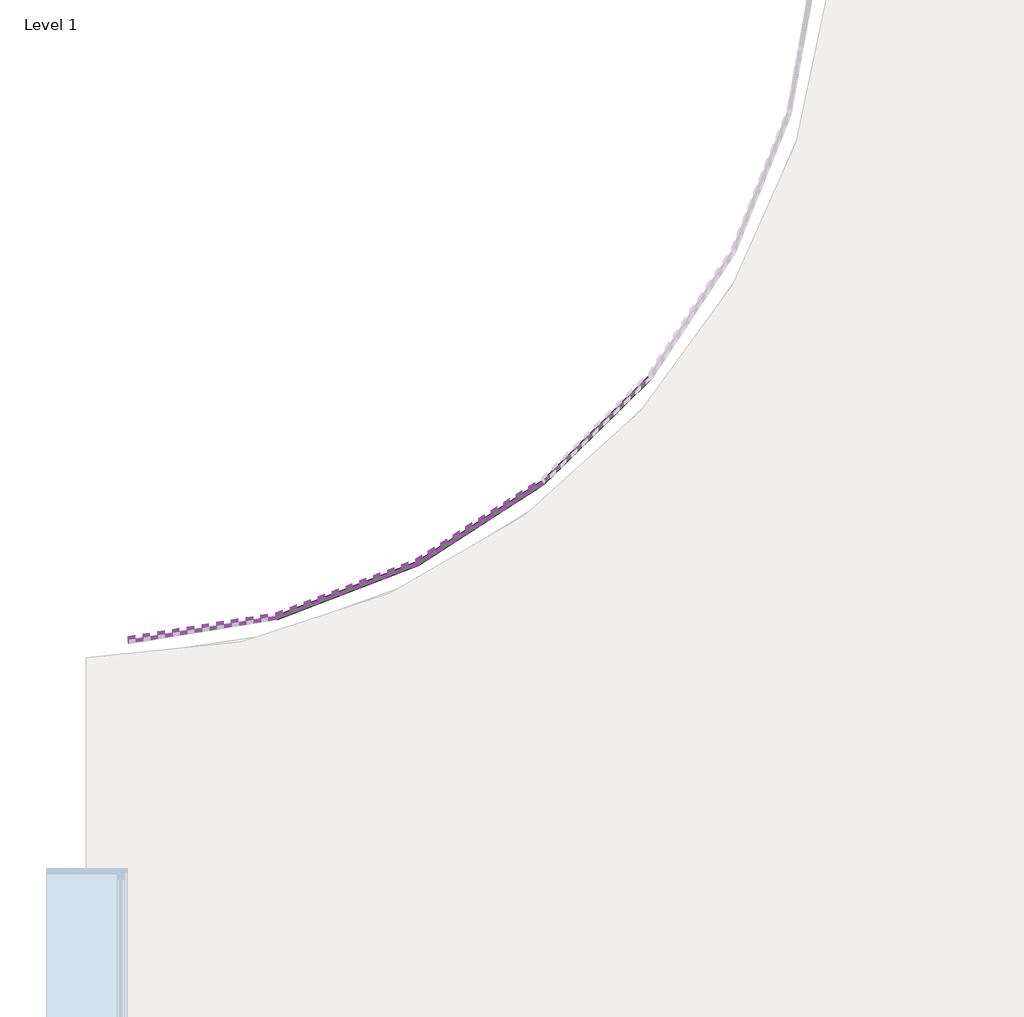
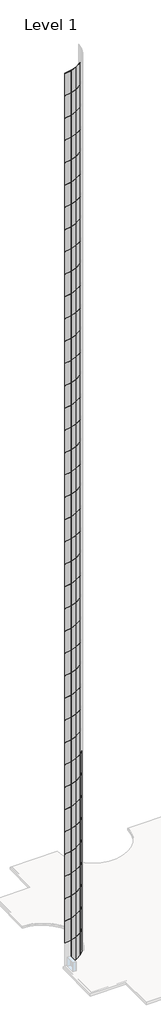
# One storey, part 2 of 19: 128 plates.
"""IFC4 building model written with IfcOpenShell, lengths in millimetres."""

from ifc_helpers import new_model, si_unit, origin, place, context, project, spatial, transform, mapped, element, save
from components import system_panel_glazed_d77d1ebf

model = new_model("IFC4")

# Units and contexts
model_context = context("Model", 3, world=origin())
ifc_project = project(units=[si_unit("LENGTHUNIT", "METRE", prefix="MILLI")], contexts=[model_context])

# Site, building, storey
site = spatial("IfcSite", under=ifc_project)
building = spatial("IfcBuilding", under=site)
storey = spatial("IfcBuildingStorey", under=building, Name="Level 1", Elevation=0.0)

# Plates
placement = place(None, origin())
system_panel_glazed_shape = system_panel_glazed_d77d1ebf(model_context)
element("IfcPlate", 1, ObjectType="System Panel : Glazed", at=placement, inside=storey, context=model_context, shape_type="MappedRepresentation", body=[
    mapped(system_panel_glazed_shape, transform((-11020.1328323, -10556.8719816, 3048.0), x_axis=(0.987325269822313, 0.15870983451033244, 0.0), y_axis=(-0.15870983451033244, 0.987325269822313, 0.0), z_axis=(0.0, 0.0, 1.0))),
])
element("IfcPlate", 2, ObjectType="System Panel : Glazed", at=placement, inside=storey, context=model_context, shape_type="MappedRepresentation", body=[
    mapped(system_panel_glazed_shape, transform((-11020.1328323, -10556.8719816, 6096.0), x_axis=(0.987325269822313, 0.15870983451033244, 0.0), y_axis=(-0.15870983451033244, 0.987325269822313, 0.0), z_axis=(0.0, 0.0, 1.0))),
])
element("IfcPlate", 3, ObjectType="System Panel : Glazed", at=placement, inside=storey, context=model_context, shape_type="MappedRepresentation", body=[
    mapped(system_panel_glazed_shape, transform((-11020.1328323, -10556.8719816, 9144.0), x_axis=(0.987325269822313, 0.15870983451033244, 0.0), y_axis=(-0.15870983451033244, 0.987325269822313, 0.0), z_axis=(0.0, 0.0, 1.0))),
])
element("IfcPlate", 4, ObjectType="System Panel : Glazed", at=placement, inside=storey, context=model_context, shape_type="MappedRepresentation", body=[
    mapped(system_panel_glazed_shape, transform((-11020.1328323, -10556.8719816, 12192.0), x_axis=(0.987325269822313, 0.15870983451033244, 0.0), y_axis=(-0.15870983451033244, 0.987325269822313, 0.0), z_axis=(0.0, 0.0, 1.0))),
])
element("IfcPlate", 5, ObjectType="System Panel : Glazed", at=placement, inside=storey, context=model_context, shape_type="MappedRepresentation", body=[
    mapped(system_panel_glazed_shape, transform((-11020.1328323, -10556.8719816, 15240.0), x_axis=(0.987325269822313, 0.15870983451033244, 0.0), y_axis=(-0.15870983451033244, 0.987325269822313, 0.0), z_axis=(0.0, 0.0, 1.0))),
])
element("IfcPlate", 6, ObjectType="System Panel : Glazed", at=placement, inside=storey, context=model_context, shape_type="MappedRepresentation", body=[
    mapped(system_panel_glazed_shape, transform((-11020.1328323, -10556.8719816, 18288.0), x_axis=(0.987325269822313, 0.15870983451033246, 0.0), y_axis=(-0.15870983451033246, 0.987325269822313, 0.0), z_axis=(0.0, 0.0, 1.0))),
])
element("IfcPlate", 7, ObjectType="System Panel : Glazed", at=placement, inside=storey, context=model_context, shape_type="MappedRepresentation", body=[
    mapped(system_panel_glazed_shape, transform((-11020.1328323, -10556.8719816, 21336.0), x_axis=(0.987325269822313, 0.15870983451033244, 0.0), y_axis=(-0.15870983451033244, 0.987325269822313, 0.0), z_axis=(0.0, 0.0, 1.0))),
])
element("IfcPlate", 8, ObjectType="System Panel : Glazed", at=placement, inside=storey, context=model_context, shape_type="MappedRepresentation", body=[
    mapped(system_panel_glazed_shape, transform((-11020.1328323, -10556.8719816, 24384.0), x_axis=(0.987325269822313, 0.15870983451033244, 0.0), y_axis=(-0.15870983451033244, 0.987325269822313, 0.0), z_axis=(0.0, 0.0, 1.0))),
])
element("IfcPlate", 9, ObjectType="System Panel : Glazed", at=placement, inside=storey, context=model_context, shape_type="MappedRepresentation", body=[
    mapped(system_panel_glazed_shape, transform((-11020.1328323, -10556.8719816, 27432.0), x_axis=(0.987325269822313, 0.15870983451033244, 0.0), y_axis=(-0.15870983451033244, 0.987325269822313, 0.0), z_axis=(0.0, 0.0, 1.0))),
])
element("IfcPlate", 10, ObjectType="System Panel : Glazed", at=placement, inside=storey, context=model_context, shape_type="MappedRepresentation", body=[
    mapped(system_panel_glazed_shape, transform((-11020.1328323, -10556.8719816, 30480.0), x_axis=(0.987325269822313, 0.15870983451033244, 0.0), y_axis=(-0.15870983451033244, 0.987325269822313, 0.0), z_axis=(0.0, 0.0, 1.0))),
])
element("IfcPlate", 11, ObjectType="System Panel : Glazed", at=placement, inside=storey, context=model_context, shape_type="MappedRepresentation", body=[
    mapped(system_panel_glazed_shape, transform((-11020.1328323, -10556.8719816, 33528.0), x_axis=(0.987325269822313, 0.15870983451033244, 0.0), y_axis=(-0.15870983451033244, 0.987325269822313, 0.0), z_axis=(0.0, 0.0, 1.0))),
])
element("IfcPlate", 12, ObjectType="System Panel : Glazed", at=placement, inside=storey, context=model_context, shape_type="MappedRepresentation", body=[
    mapped(system_panel_glazed_shape, transform((-11020.1328323, -10556.8719816, 36576.0), x_axis=(0.987325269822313, 0.15870983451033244, 0.0), y_axis=(-0.15870983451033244, 0.987325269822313, 0.0), z_axis=(0.0, 0.0, 1.0))),
])
element("IfcPlate", 13, ObjectType="System Panel : Glazed", at=placement, inside=storey, context=model_context, shape_type="MappedRepresentation", body=[
    mapped(system_panel_glazed_shape, transform((-11020.1328323, -10556.8719816, 39624.0), x_axis=(0.987325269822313, 0.15870983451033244, 0.0), y_axis=(-0.15870983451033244, 0.987325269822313, 0.0), z_axis=(0.0, 0.0, 1.0))),
])
element("IfcPlate", 14, ObjectType="System Panel : Glazed", at=placement, inside=storey, context=model_context, shape_type="MappedRepresentation", body=[
    mapped(system_panel_glazed_shape, transform((-11020.1328323, -10556.8719816, 42672.0), x_axis=(0.987325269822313, 0.15870983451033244, 0.0), y_axis=(-0.15870983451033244, 0.987325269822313, 0.0), z_axis=(0.0, 0.0, 1.0))),
])
element("IfcPlate", 15, ObjectType="System Panel : Glazed", at=placement, inside=storey, context=model_context, shape_type="MappedRepresentation", body=[
    mapped(system_panel_glazed_shape, transform((-11020.1328323, -10556.8719816, 45720.0), x_axis=(0.987325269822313, 0.15870983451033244, 0.0), y_axis=(-0.15870983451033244, 0.987325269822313, 0.0), z_axis=(0.0, 0.0, 1.0))),
])
element("IfcPlate", 16, ObjectType="System Panel : Glazed", at=placement, inside=storey, context=model_context, shape_type="MappedRepresentation", body=[
    mapped(system_panel_glazed_shape, transform((-11020.1328323, -10556.8719816, 48768.0), x_axis=(0.987325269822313, 0.15870983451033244, 0.0), y_axis=(-0.15870983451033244, 0.987325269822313, 0.0), z_axis=(0.0, 0.0, 1.0))),
])
element("IfcPlate", 17, ObjectType="System Panel : Glazed", at=placement, inside=storey, context=model_context, shape_type="MappedRepresentation", body=[
    mapped(system_panel_glazed_shape, transform((-11020.1328323, -10556.8719816, 51816.0), x_axis=(0.987325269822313, 0.15870983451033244, 0.0), y_axis=(-0.15870983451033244, 0.987325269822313, 0.0), z_axis=(0.0, 0.0, 1.0))),
])
element("IfcPlate", 18, ObjectType="System Panel : Glazed", at=placement, inside=storey, context=model_context, shape_type="MappedRepresentation", body=[
    mapped(system_panel_glazed_shape, transform((-11020.1328323, -10556.8719816, 54864.0), x_axis=(0.987325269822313, 0.15870983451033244, 0.0), y_axis=(-0.15870983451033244, 0.987325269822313, 0.0), z_axis=(0.0, 0.0, 1.0))),
])
element("IfcPlate", 19, ObjectType="System Panel : Glazed", at=placement, inside=storey, context=model_context, shape_type="MappedRepresentation", body=[
    mapped(system_panel_glazed_shape, transform((-11020.1328323, -10556.8719816, 57912.0), x_axis=(0.987325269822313, 0.15870983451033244, 0.0), y_axis=(-0.15870983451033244, 0.987325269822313, 0.0), z_axis=(0.0, 0.0, 1.0))),
])
element("IfcPlate", 20, ObjectType="System Panel : Glazed", at=placement, inside=storey, context=model_context, shape_type="MappedRepresentation", body=[
    mapped(system_panel_glazed_shape, transform((-11020.1328323, -10556.8719816, 60960.0), x_axis=(0.987325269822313, 0.15870983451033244, 0.0), y_axis=(-0.15870983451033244, 0.987325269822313, 0.0), z_axis=(0.0, 0.0, 1.0))),
])
element("IfcPlate", 21, ObjectType="System Panel : Glazed", at=placement, inside=storey, context=model_context, shape_type="MappedRepresentation", body=[
    mapped(system_panel_glazed_shape, transform((-11020.1328323, -10556.8719816, 64008.0), x_axis=(0.987325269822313, 0.15870983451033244, 0.0), y_axis=(-0.15870983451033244, 0.987325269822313, 0.0), z_axis=(0.0, 0.0, 1.0))),
])
element("IfcPlate", 22, ObjectType="System Panel : Glazed", at=placement, inside=storey, context=model_context, shape_type="MappedRepresentation", body=[
    mapped(system_panel_glazed_shape, transform((-11020.1328323, -10556.8719816, 67056.0), x_axis=(0.987325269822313, 0.15870983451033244, 0.0), y_axis=(-0.15870983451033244, 0.987325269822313, 0.0), z_axis=(0.0, 0.0, 1.0))),
])
element("IfcPlate", 23, ObjectType="System Panel : Glazed", at=placement, inside=storey, context=model_context, shape_type="MappedRepresentation", body=[
    mapped(system_panel_glazed_shape, transform((-11020.1328323, -10556.8719816, 70104.0), x_axis=(0.987325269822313, 0.15870983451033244, 0.0), y_axis=(-0.15870983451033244, 0.987325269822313, 0.0), z_axis=(0.0, 0.0, 1.0))),
])
element("IfcPlate", 24, ObjectType="System Panel : Glazed", at=placement, inside=storey, context=model_context, shape_type="MappedRepresentation", body=[
    mapped(system_panel_glazed_shape, transform((-11020.1328323, -10556.8719816, 73152.0), x_axis=(0.987325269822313, 0.15870983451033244, 0.0), y_axis=(-0.15870983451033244, 0.987325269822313, 0.0), z_axis=(0.0, 0.0, 1.0))),
])
element("IfcPlate", 25, ObjectType="System Panel : Glazed", at=placement, inside=storey, context=model_context, shape_type="MappedRepresentation", body=[
    mapped(system_panel_glazed_shape, transform((-11020.1328323, -10556.8719816, 76200.0), x_axis=(0.987325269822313, 0.15870983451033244, 0.0), y_axis=(-0.15870983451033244, 0.987325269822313, 0.0), z_axis=(0.0, 0.0, 1.0))),
])
element("IfcPlate", 26, ObjectType="System Panel : Glazed", at=placement, inside=storey, context=model_context, shape_type="MappedRepresentation", body=[
    mapped(system_panel_glazed_shape, transform((-11020.1328323, -10556.8719816, 79248.0), x_axis=(0.987325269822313, 0.15870983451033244, 0.0), y_axis=(-0.15870983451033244, 0.987325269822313, 0.0), z_axis=(0.0, 0.0, 1.0))),
])
element("IfcPlate", 27, ObjectType="System Panel : Glazed", at=placement, inside=storey, context=model_context, shape_type="MappedRepresentation", body=[
    mapped(system_panel_glazed_shape, transform((-11020.1328323, -10556.8719816, 82296.0), x_axis=(0.987325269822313, 0.15870983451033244, 0.0), y_axis=(-0.15870983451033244, 0.987325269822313, 0.0), z_axis=(0.0, 0.0, 1.0))),
])
element("IfcPlate", 28, ObjectType="System Panel : Glazed", at=placement, inside=storey, context=model_context, shape_type="MappedRepresentation", body=[
    mapped(system_panel_glazed_shape, transform((-11020.1328323, -10556.8719816, 85344.0), x_axis=(0.987325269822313, 0.15870983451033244, 0.0), y_axis=(-0.15870983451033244, 0.987325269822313, 0.0), z_axis=(0.0, 0.0, 1.0))),
])
element("IfcPlate", 29, ObjectType="System Panel : Glazed", at=placement, inside=storey, context=model_context, shape_type="MappedRepresentation", body=[
    mapped(system_panel_glazed_shape, transform((-11020.1328323, -10556.8719816, 88392.0), x_axis=(0.987325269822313, 0.15870983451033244, 0.0), y_axis=(-0.15870983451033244, 0.987325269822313, 0.0), z_axis=(0.0, 0.0, 1.0))),
])
element("IfcPlate", 30, ObjectType="System Panel : Glazed", at=placement, inside=storey, context=model_context, shape_type="MappedRepresentation", body=[
    mapped(system_panel_glazed_shape, transform((-11020.1328323, -10556.8719816, 91440.0), x_axis=(0.987325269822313, 0.15870983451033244, 0.0), y_axis=(-0.15870983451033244, 0.987325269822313, 0.0), z_axis=(0.0, 0.0, 1.0))),
])
element("IfcPlate", 31, ObjectType="System Panel : Glazed", at=placement, inside=storey, context=model_context, shape_type="MappedRepresentation", body=[
    mapped(system_panel_glazed_shape, transform((-11020.1328323, -10556.8719816, 94488.0), x_axis=(0.987325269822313, 0.15870983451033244, 0.0), y_axis=(-0.15870983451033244, 0.987325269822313, 0.0), z_axis=(0.0, 0.0, 1.0))),
])
element("IfcPlate", 32, ObjectType="System Panel : Glazed", at=placement, inside=storey, context=model_context, shape_type="MappedRepresentation", body=[
    mapped(system_panel_glazed_shape, transform((-11020.1328323, -10556.8719816, 97536.0), x_axis=(0.987325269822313, 0.15870983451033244, 0.0), y_axis=(-0.15870983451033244, 0.987325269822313, 0.0), z_axis=(0.0, 0.0, 1.0))),
])
element("IfcPlate", 33, ObjectType="System Panel : Glazed", at=placement, inside=storey, context=model_context, shape_type="MappedRepresentation", body=[
    mapped(system_panel_glazed_shape, transform((-11020.1328323, -10556.8719816, 100584.0), x_axis=(0.987325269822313, 0.15870983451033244, 0.0), y_axis=(-0.15870983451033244, 0.987325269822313, 0.0), z_axis=(0.0, 0.0, 1.0))),
])
element("IfcPlate", 34, ObjectType="System Panel : Glazed", at=placement, inside=storey, context=model_context, shape_type="MappedRepresentation", body=[
    mapped(system_panel_glazed_shape, transform((-10141.6977511, -10320.9781379, 0.0), x_axis=(0.9340113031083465, 0.35724345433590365, 0.0), y_axis=(-0.35724345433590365, 0.9340113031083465, 0.0), z_axis=(0.0, 0.0, 1.0))),
])
element("IfcPlate", 35, ObjectType="System Panel : Glazed", at=placement, inside=storey, context=model_context, shape_type="MappedRepresentation", body=[
    mapped(system_panel_glazed_shape, transform((-10141.6977511, -10320.9781379, 3048.0), x_axis=(0.9340113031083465, 0.35724345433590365, 0.0), y_axis=(-0.35724345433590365, 0.9340113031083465, 0.0), z_axis=(0.0, 0.0, 1.0))),
])
element("IfcPlate", 36, ObjectType="System Panel : Glazed", at=placement, inside=storey, context=model_context, shape_type="MappedRepresentation", body=[
    mapped(system_panel_glazed_shape, transform((-10141.6977511, -10320.9781379, 6096.0), x_axis=(0.9340113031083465, 0.35724345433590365, 0.0), y_axis=(-0.35724345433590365, 0.9340113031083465, 0.0), z_axis=(0.0, 0.0, 1.0))),
])
element("IfcPlate", 37, ObjectType="System Panel : Glazed", at=placement, inside=storey, context=model_context, shape_type="MappedRepresentation", body=[
    mapped(system_panel_glazed_shape, transform((-10141.6977511, -10320.9781379, 9144.0), x_axis=(0.9340113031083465, 0.35724345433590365, 0.0), y_axis=(-0.35724345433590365, 0.9340113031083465, 0.0), z_axis=(0.0, 0.0, 1.0))),
])
element("IfcPlate", 38, ObjectType="System Panel : Glazed", at=placement, inside=storey, context=model_context, shape_type="MappedRepresentation", body=[
    mapped(system_panel_glazed_shape, transform((-10141.6977511, -10320.9781379, 12192.0), x_axis=(0.9340113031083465, 0.35724345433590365, 0.0), y_axis=(-0.35724345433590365, 0.9340113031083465, 0.0), z_axis=(0.0, 0.0, 1.0))),
])
element("IfcPlate", 39, ObjectType="System Panel : Glazed", at=placement, inside=storey, context=model_context, shape_type="MappedRepresentation", body=[
    mapped(system_panel_glazed_shape, transform((-10141.6977511, -10320.9781379, 15240.0), x_axis=(0.9340113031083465, 0.35724345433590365, 0.0), y_axis=(-0.35724345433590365, 0.9340113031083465, 0.0), z_axis=(0.0, 0.0, 1.0))),
])
element("IfcPlate", 40, ObjectType="System Panel : Glazed", at=placement, inside=storey, context=model_context, shape_type="MappedRepresentation", body=[
    mapped(system_panel_glazed_shape, transform((-10141.6977511, -10320.9781379, 18288.0), x_axis=(0.9340113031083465, 0.35724345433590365, 0.0), y_axis=(-0.35724345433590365, 0.9340113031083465, 0.0), z_axis=(0.0, 0.0, 1.0))),
])
element("IfcPlate", 41, ObjectType="System Panel : Glazed", at=placement, inside=storey, context=model_context, shape_type="MappedRepresentation", body=[
    mapped(system_panel_glazed_shape, transform((-10141.6977511, -10320.9781379, 21336.0), x_axis=(0.9340113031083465, 0.35724345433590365, 0.0), y_axis=(-0.35724345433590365, 0.9340113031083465, 0.0), z_axis=(0.0, 0.0, 1.0))),
])
element("IfcPlate", 42, ObjectType="System Panel : Glazed", at=placement, inside=storey, context=model_context, shape_type="MappedRepresentation", body=[
    mapped(system_panel_glazed_shape, transform((-10141.6977511, -10320.9781379, 24384.0), x_axis=(0.9340113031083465, 0.35724345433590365, 0.0), y_axis=(-0.35724345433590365, 0.9340113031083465, 0.0), z_axis=(0.0, 0.0, 1.0))),
])
element("IfcPlate", 43, ObjectType="System Panel : Glazed", at=placement, inside=storey, context=model_context, shape_type="MappedRepresentation", body=[
    mapped(system_panel_glazed_shape, transform((-10141.6977511, -10320.9781379, 27432.0), x_axis=(0.9340113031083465, 0.35724345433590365, 0.0), y_axis=(-0.35724345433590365, 0.9340113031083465, 0.0), z_axis=(0.0, 0.0, 1.0))),
])
element("IfcPlate", 44, ObjectType="System Panel : Glazed", at=placement, inside=storey, context=model_context, shape_type="MappedRepresentation", body=[
    mapped(system_panel_glazed_shape, transform((-10141.6977511, -10320.9781379, 30480.0), x_axis=(0.9340113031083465, 0.35724345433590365, 0.0), y_axis=(-0.35724345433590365, 0.9340113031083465, 0.0), z_axis=(0.0, 0.0, 1.0))),
])
element("IfcPlate", 45, ObjectType="System Panel : Glazed", at=placement, inside=storey, context=model_context, shape_type="MappedRepresentation", body=[
    mapped(system_panel_glazed_shape, transform((-10141.6977511, -10320.9781379, 33528.0), x_axis=(0.9340113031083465, 0.35724345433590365, 0.0), y_axis=(-0.35724345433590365, 0.9340113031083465, 0.0), z_axis=(0.0, 0.0, 1.0))),
])
element("IfcPlate", 46, ObjectType="System Panel : Glazed", at=placement, inside=storey, context=model_context, shape_type="MappedRepresentation", body=[
    mapped(system_panel_glazed_shape, transform((-10141.6977511, -10320.9781379, 36576.0), x_axis=(0.9340113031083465, 0.35724345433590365, 0.0), y_axis=(-0.35724345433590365, 0.9340113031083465, 0.0), z_axis=(0.0, 0.0, 1.0))),
])
element("IfcPlate", 47, ObjectType="System Panel : Glazed", at=placement, inside=storey, context=model_context, shape_type="MappedRepresentation", body=[
    mapped(system_panel_glazed_shape, transform((-10141.6977511, -10320.9781379, 39624.0), x_axis=(0.9340113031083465, 0.35724345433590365, 0.0), y_axis=(-0.35724345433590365, 0.9340113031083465, 0.0), z_axis=(0.0, 0.0, 1.0))),
])
element("IfcPlate", 48, ObjectType="System Panel : Glazed", at=placement, inside=storey, context=model_context, shape_type="MappedRepresentation", body=[
    mapped(system_panel_glazed_shape, transform((-10141.6977511, -10320.9781379, 42672.0), x_axis=(0.9340113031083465, 0.35724345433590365, 0.0), y_axis=(-0.35724345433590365, 0.9340113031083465, 0.0), z_axis=(0.0, 0.0, 1.0))),
])
element("IfcPlate", 49, ObjectType="System Panel : Glazed", at=placement, inside=storey, context=model_context, shape_type="MappedRepresentation", body=[
    mapped(system_panel_glazed_shape, transform((-10141.6977511, -10320.9781379, 45720.0), x_axis=(0.9340113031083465, 0.35724345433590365, 0.0), y_axis=(-0.35724345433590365, 0.9340113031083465, 0.0), z_axis=(0.0, 0.0, 1.0))),
])
element("IfcPlate", 50, ObjectType="System Panel : Glazed", at=placement, inside=storey, context=model_context, shape_type="MappedRepresentation", body=[
    mapped(system_panel_glazed_shape, transform((-10141.6977511, -10320.9781379, 48768.0), x_axis=(0.9340113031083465, 0.35724345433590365, 0.0), y_axis=(-0.35724345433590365, 0.9340113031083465, 0.0), z_axis=(0.0, 0.0, 1.0))),
])
element("IfcPlate", 51, ObjectType="System Panel : Glazed", at=placement, inside=storey, context=model_context, shape_type="MappedRepresentation", body=[
    mapped(system_panel_glazed_shape, transform((-10141.6977511, -10320.9781379, 51816.0), x_axis=(0.9340113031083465, 0.35724345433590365, 0.0), y_axis=(-0.35724345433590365, 0.9340113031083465, 0.0), z_axis=(0.0, 0.0, 1.0))),
])
element("IfcPlate", 52, ObjectType="System Panel : Glazed", at=placement, inside=storey, context=model_context, shape_type="MappedRepresentation", body=[
    mapped(system_panel_glazed_shape, transform((-10141.6977511, -10320.9781379, 54864.0), x_axis=(0.9340113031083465, 0.35724345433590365, 0.0), y_axis=(-0.35724345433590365, 0.9340113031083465, 0.0), z_axis=(0.0, 0.0, 1.0))),
])
element("IfcPlate", 53, ObjectType="System Panel : Glazed", at=placement, inside=storey, context=model_context, shape_type="MappedRepresentation", body=[
    mapped(system_panel_glazed_shape, transform((-10141.6977511, -10320.9781379, 57912.0), x_axis=(0.9340113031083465, 0.35724345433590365, 0.0), y_axis=(-0.35724345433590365, 0.9340113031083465, 0.0), z_axis=(0.0, 0.0, 1.0))),
])
element("IfcPlate", 54, ObjectType="System Panel : Glazed", at=placement, inside=storey, context=model_context, shape_type="MappedRepresentation", body=[
    mapped(system_panel_glazed_shape, transform((-10141.6977511, -10320.9781379, 60960.0), x_axis=(0.9340113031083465, 0.35724345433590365, 0.0), y_axis=(-0.35724345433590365, 0.9340113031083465, 0.0), z_axis=(0.0, 0.0, 1.0))),
])
element("IfcPlate", 55, ObjectType="System Panel : Glazed", at=placement, inside=storey, context=model_context, shape_type="MappedRepresentation", body=[
    mapped(system_panel_glazed_shape, transform((-10141.6977511, -10320.9781379, 64008.0), x_axis=(0.9340113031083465, 0.35724345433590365, 0.0), y_axis=(-0.35724345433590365, 0.9340113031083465, 0.0), z_axis=(0.0, 0.0, 1.0))),
])
element("IfcPlate", 56, ObjectType="System Panel : Glazed", at=placement, inside=storey, context=model_context, shape_type="MappedRepresentation", body=[
    mapped(system_panel_glazed_shape, transform((-10141.6977511, -10320.9781379, 67056.0), x_axis=(0.9340113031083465, 0.35724345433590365, 0.0), y_axis=(-0.35724345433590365, 0.9340113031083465, 0.0), z_axis=(0.0, 0.0, 1.0))),
])
element("IfcPlate", 57, ObjectType="System Panel : Glazed", at=placement, inside=storey, context=model_context, shape_type="MappedRepresentation", body=[
    mapped(system_panel_glazed_shape, transform((-10141.6977511, -10320.9781379, 70104.0), x_axis=(0.9340113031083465, 0.35724345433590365, 0.0), y_axis=(-0.35724345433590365, 0.9340113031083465, 0.0), z_axis=(0.0, 0.0, 1.0))),
])
element("IfcPlate", 58, ObjectType="System Panel : Glazed", at=placement, inside=storey, context=model_context, shape_type="MappedRepresentation", body=[
    mapped(system_panel_glazed_shape, transform((-10141.6977511, -10320.9781379, 73152.0), x_axis=(0.9340113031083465, 0.35724345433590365, 0.0), y_axis=(-0.35724345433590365, 0.9340113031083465, 0.0), z_axis=(0.0, 0.0, 1.0))),
])
element("IfcPlate", 59, ObjectType="System Panel : Glazed", at=placement, inside=storey, context=model_context, shape_type="MappedRepresentation", body=[
    mapped(system_panel_glazed_shape, transform((-10141.6977511, -10320.9781379, 76200.0), x_axis=(0.9340113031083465, 0.35724345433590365, 0.0), y_axis=(-0.35724345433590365, 0.9340113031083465, 0.0), z_axis=(0.0, 0.0, 1.0))),
])
element("IfcPlate", 60, ObjectType="System Panel : Glazed", at=placement, inside=storey, context=model_context, shape_type="MappedRepresentation", body=[
    mapped(system_panel_glazed_shape, transform((-10141.6977511, -10320.9781379, 79248.0), x_axis=(0.9340113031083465, 0.35724345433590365, 0.0), y_axis=(-0.35724345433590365, 0.9340113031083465, 0.0), z_axis=(0.0, 0.0, 1.0))),
])
element("IfcPlate", 61, ObjectType="System Panel : Glazed", at=placement, inside=storey, context=model_context, shape_type="MappedRepresentation", body=[
    mapped(system_panel_glazed_shape, transform((-10141.6977511, -10320.9781379, 82296.0), x_axis=(0.9340113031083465, 0.35724345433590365, 0.0), y_axis=(-0.35724345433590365, 0.9340113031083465, 0.0), z_axis=(0.0, 0.0, 1.0))),
])
element("IfcPlate", 62, ObjectType="System Panel : Glazed", at=placement, inside=storey, context=model_context, shape_type="MappedRepresentation", body=[
    mapped(system_panel_glazed_shape, transform((-10141.6977511, -10320.9781379, 85344.0), x_axis=(0.9340113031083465, 0.35724345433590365, 0.0), y_axis=(-0.35724345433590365, 0.9340113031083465, 0.0), z_axis=(0.0, 0.0, 1.0))),
])
element("IfcPlate", 63, ObjectType="System Panel : Glazed", at=placement, inside=storey, context=model_context, shape_type="MappedRepresentation", body=[
    mapped(system_panel_glazed_shape, transform((-10141.6977511, -10320.9781379, 88392.0), x_axis=(0.9340113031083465, 0.35724345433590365, 0.0), y_axis=(-0.35724345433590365, 0.9340113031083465, 0.0), z_axis=(0.0, 0.0, 1.0))),
])
element("IfcPlate", 64, ObjectType="System Panel : Glazed", at=placement, inside=storey, context=model_context, shape_type="MappedRepresentation", body=[
    mapped(system_panel_glazed_shape, transform((-10141.6977511, -10320.9781379, 91440.0), x_axis=(0.9340113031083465, 0.35724345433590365, 0.0), y_axis=(-0.35724345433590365, 0.9340113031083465, 0.0), z_axis=(0.0, 0.0, 1.0))),
])
element("IfcPlate", 65, ObjectType="System Panel : Glazed", at=placement, inside=storey, context=model_context, shape_type="MappedRepresentation", body=[
    mapped(system_panel_glazed_shape, transform((-10141.6977511, -10320.9781379, 94488.0), x_axis=(0.9340113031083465, 0.35724345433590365, 0.0), y_axis=(-0.35724345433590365, 0.9340113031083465, 0.0), z_axis=(0.0, 0.0, 1.0))),
])
element("IfcPlate", 66, ObjectType="System Panel : Glazed", at=placement, inside=storey, context=model_context, shape_type="MappedRepresentation", body=[
    mapped(system_panel_glazed_shape, transform((-10141.6977511, -10320.9781379, 97536.0), x_axis=(0.9340113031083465, 0.35724345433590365, 0.0), y_axis=(-0.35724345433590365, 0.9340113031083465, 0.0), z_axis=(0.0, 0.0, 1.0))),
])
element("IfcPlate", 67, ObjectType="System Panel : Glazed", at=placement, inside=storey, context=model_context, shape_type="MappedRepresentation", body=[
    mapped(system_panel_glazed_shape, transform((-10141.6977511, -10320.9781379, 100584.0), x_axis=(0.9340113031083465, 0.35724345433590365, 0.0), y_axis=(-0.35724345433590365, 0.9340113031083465, 0.0), z_axis=(0.0, 0.0, 1.0))),
])
element("IfcPlate", 68, ObjectType="System Panel : Glazed", at=placement, inside=storey, context=model_context, shape_type="MappedRepresentation", body=[
    mapped(system_panel_glazed_shape, transform((-9330.0583838, -9910.4472199, 0.0), x_axis=(0.8412279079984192, 0.5406806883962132, 0.0), y_axis=(-0.5406806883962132, 0.8412279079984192, 0.0), z_axis=(0.0, 0.0, 1.0))),
])
element("IfcPlate", 69, ObjectType="System Panel : Glazed", at=placement, inside=storey, context=model_context, shape_type="MappedRepresentation", body=[
    mapped(system_panel_glazed_shape, transform((-9330.0583838, -9910.4472199, 3048.0), x_axis=(0.8412279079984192, 0.5406806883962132, 0.0), y_axis=(-0.5406806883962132, 0.8412279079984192, 0.0), z_axis=(0.0, 0.0, 1.0))),
])
element("IfcPlate", 70, ObjectType="System Panel : Glazed", at=placement, inside=storey, context=model_context, shape_type="MappedRepresentation", body=[
    mapped(system_panel_glazed_shape, transform((-9330.0583838, -9910.4472199, 6096.0), x_axis=(0.8412279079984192, 0.5406806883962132, 0.0), y_axis=(-0.5406806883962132, 0.8412279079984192, 0.0), z_axis=(0.0, 0.0, 1.0))),
])
element("IfcPlate", 71, ObjectType="System Panel : Glazed", at=placement, inside=storey, context=model_context, shape_type="MappedRepresentation", body=[
    mapped(system_panel_glazed_shape, transform((-9330.0583838, -9910.4472199, 9144.0), x_axis=(0.8412279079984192, 0.5406806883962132, 0.0), y_axis=(-0.5406806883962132, 0.8412279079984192, 0.0), z_axis=(0.0, 0.0, 1.0))),
])
element("IfcPlate", 72, ObjectType="System Panel : Glazed", at=placement, inside=storey, context=model_context, shape_type="MappedRepresentation", body=[
    mapped(system_panel_glazed_shape, transform((-9330.0583838, -9910.4472199, 12192.0), x_axis=(0.8412279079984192, 0.5406806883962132, 0.0), y_axis=(-0.5406806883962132, 0.8412279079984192, 0.0), z_axis=(0.0, 0.0, 1.0))),
])
element("IfcPlate", 73, ObjectType="System Panel : Glazed", at=placement, inside=storey, context=model_context, shape_type="MappedRepresentation", body=[
    mapped(system_panel_glazed_shape, transform((-9330.0583838, -9910.4472199, 15240.0), x_axis=(0.8412279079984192, 0.5406806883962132, 0.0), y_axis=(-0.5406806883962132, 0.8412279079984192, 0.0), z_axis=(0.0, 0.0, 1.0))),
])
element("IfcPlate", 74, ObjectType="System Panel : Glazed", at=placement, inside=storey, context=model_context, shape_type="MappedRepresentation", body=[
    mapped(system_panel_glazed_shape, transform((-9330.0583838, -9910.4472199, 18288.0), x_axis=(0.8412279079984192, 0.5406806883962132, 0.0), y_axis=(-0.5406806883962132, 0.8412279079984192, 0.0), z_axis=(0.0, 0.0, 1.0))),
])
element("IfcPlate", 75, ObjectType="System Panel : Glazed", at=placement, inside=storey, context=model_context, shape_type="MappedRepresentation", body=[
    mapped(system_panel_glazed_shape, transform((-9330.0583838, -9910.4472199, 21336.0), x_axis=(0.8412279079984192, 0.5406806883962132, 0.0), y_axis=(-0.5406806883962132, 0.8412279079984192, 0.0), z_axis=(0.0, 0.0, 1.0))),
])
element("IfcPlate", 76, ObjectType="System Panel : Glazed", at=placement, inside=storey, context=model_context, shape_type="MappedRepresentation", body=[
    mapped(system_panel_glazed_shape, transform((-9330.0583838, -9910.4472199, 24384.0), x_axis=(0.8412279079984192, 0.5406806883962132, 0.0), y_axis=(-0.5406806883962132, 0.8412279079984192, 0.0), z_axis=(0.0, 0.0, 1.0))),
])
element("IfcPlate", 77, ObjectType="System Panel : Glazed", at=placement, inside=storey, context=model_context, shape_type="MappedRepresentation", body=[
    mapped(system_panel_glazed_shape, transform((-9330.0583838, -9910.4472199, 27432.0), x_axis=(0.8412279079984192, 0.5406806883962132, 0.0), y_axis=(-0.5406806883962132, 0.8412279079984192, 0.0), z_axis=(0.0, 0.0, 1.0))),
])
element("IfcPlate", 78, ObjectType="System Panel : Glazed", at=placement, inside=storey, context=model_context, shape_type="MappedRepresentation", body=[
    mapped(system_panel_glazed_shape, transform((-9330.0583838, -9910.4472199, 30480.0), x_axis=(0.8412279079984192, 0.5406806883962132, 0.0), y_axis=(-0.5406806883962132, 0.8412279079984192, 0.0), z_axis=(0.0, 0.0, 1.0))),
])
element("IfcPlate", 79, ObjectType="System Panel : Glazed", at=placement, inside=storey, context=model_context, shape_type="MappedRepresentation", body=[
    mapped(system_panel_glazed_shape, transform((-9330.0583838, -9910.4472199, 33528.0), x_axis=(0.8412279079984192, 0.5406806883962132, 0.0), y_axis=(-0.5406806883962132, 0.8412279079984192, 0.0), z_axis=(0.0, 0.0, 1.0))),
])
element("IfcPlate", 80, ObjectType="System Panel : Glazed", at=placement, inside=storey, context=model_context, shape_type="MappedRepresentation", body=[
    mapped(system_panel_glazed_shape, transform((-9330.0583838, -9910.4472199, 36576.0), x_axis=(0.8412279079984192, 0.5406806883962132, 0.0), y_axis=(-0.5406806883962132, 0.8412279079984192, 0.0), z_axis=(0.0, 0.0, 1.0))),
])
element("IfcPlate", 81, ObjectType="System Panel : Glazed", at=placement, inside=storey, context=model_context, shape_type="MappedRepresentation", body=[
    mapped(system_panel_glazed_shape, transform((-9330.0583838, -9910.4472199, 39624.0), x_axis=(0.8412279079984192, 0.5406806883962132, 0.0), y_axis=(-0.5406806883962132, 0.8412279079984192, 0.0), z_axis=(0.0, 0.0, 1.0))),
])
element("IfcPlate", 82, ObjectType="System Panel : Glazed", at=placement, inside=storey, context=model_context, shape_type="MappedRepresentation", body=[
    mapped(system_panel_glazed_shape, transform((-9330.0583838, -9910.4472199, 42672.0), x_axis=(0.8412279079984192, 0.5406806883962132, 0.0), y_axis=(-0.5406806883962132, 0.8412279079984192, 0.0), z_axis=(0.0, 0.0, 1.0))),
])
element("IfcPlate", 83, ObjectType="System Panel : Glazed", at=placement, inside=storey, context=model_context, shape_type="MappedRepresentation", body=[
    mapped(system_panel_glazed_shape, transform((-9330.0583838, -9910.4472199, 45720.0), x_axis=(0.8412279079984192, 0.5406806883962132, 0.0), y_axis=(-0.5406806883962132, 0.8412279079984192, 0.0), z_axis=(0.0, 0.0, 1.0))),
])
element("IfcPlate", 84, ObjectType="System Panel : Glazed", at=placement, inside=storey, context=model_context, shape_type="MappedRepresentation", body=[
    mapped(system_panel_glazed_shape, transform((-9330.0583838, -9910.4472199, 48768.0), x_axis=(0.8412279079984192, 0.5406806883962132, 0.0), y_axis=(-0.5406806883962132, 0.8412279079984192, 0.0), z_axis=(0.0, 0.0, 1.0))),
])
element("IfcPlate", 85, ObjectType="System Panel : Glazed", at=placement, inside=storey, context=model_context, shape_type="MappedRepresentation", body=[
    mapped(system_panel_glazed_shape, transform((-9330.0583838, -9910.4472199, 51816.0), x_axis=(0.8412279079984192, 0.5406806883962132, 0.0), y_axis=(-0.5406806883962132, 0.8412279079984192, 0.0), z_axis=(0.0, 0.0, 1.0))),
])
element("IfcPlate", 86, ObjectType="System Panel : Glazed", at=placement, inside=storey, context=model_context, shape_type="MappedRepresentation", body=[
    mapped(system_panel_glazed_shape, transform((-9330.0583838, -9910.4472199, 54864.0), x_axis=(0.8412279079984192, 0.5406806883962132, 0.0), y_axis=(-0.5406806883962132, 0.8412279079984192, 0.0), z_axis=(0.0, 0.0, 1.0))),
])
element("IfcPlate", 87, ObjectType="System Panel : Glazed", at=placement, inside=storey, context=model_context, shape_type="MappedRepresentation", body=[
    mapped(system_panel_glazed_shape, transform((-9330.0583838, -9910.4472199, 57912.0), x_axis=(0.8412279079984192, 0.5406806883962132, 0.0), y_axis=(-0.5406806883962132, 0.8412279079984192, 0.0), z_axis=(0.0, 0.0, 1.0))),
])
element("IfcPlate", 88, ObjectType="System Panel : Glazed", at=placement, inside=storey, context=model_context, shape_type="MappedRepresentation", body=[
    mapped(system_panel_glazed_shape, transform((-9330.0583838, -9910.4472199, 60960.0), x_axis=(0.8412279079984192, 0.5406806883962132, 0.0), y_axis=(-0.5406806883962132, 0.8412279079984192, 0.0), z_axis=(0.0, 0.0, 1.0))),
])
element("IfcPlate", 89, ObjectType="System Panel : Glazed", at=placement, inside=storey, context=model_context, shape_type="MappedRepresentation", body=[
    mapped(system_panel_glazed_shape, transform((-9330.0583838, -9910.4472199, 64008.0), x_axis=(0.8412279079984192, 0.5406806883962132, 0.0), y_axis=(-0.5406806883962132, 0.8412279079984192, 0.0), z_axis=(0.0, 0.0, 1.0))),
])
element("IfcPlate", 90, ObjectType="System Panel : Glazed", at=placement, inside=storey, context=model_context, shape_type="MappedRepresentation", body=[
    mapped(system_panel_glazed_shape, transform((-9330.0583838, -9910.4472199, 67056.0), x_axis=(0.8412279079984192, 0.5406806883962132, 0.0), y_axis=(-0.5406806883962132, 0.8412279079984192, 0.0), z_axis=(0.0, 0.0, 1.0))),
])
element("IfcPlate", 91, ObjectType="System Panel : Glazed", at=placement, inside=storey, context=model_context, shape_type="MappedRepresentation", body=[
    mapped(system_panel_glazed_shape, transform((-9330.0583838, -9910.4472199, 70104.0), x_axis=(0.8412279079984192, 0.5406806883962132, 0.0), y_axis=(-0.5406806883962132, 0.8412279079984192, 0.0), z_axis=(0.0, 0.0, 1.0))),
])
element("IfcPlate", 92, ObjectType="System Panel : Glazed", at=placement, inside=storey, context=model_context, shape_type="MappedRepresentation", body=[
    mapped(system_panel_glazed_shape, transform((-9330.0583838, -9910.4472199, 73152.0), x_axis=(0.8412279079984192, 0.5406806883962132, 0.0), y_axis=(-0.5406806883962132, 0.8412279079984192, 0.0), z_axis=(0.0, 0.0, 1.0))),
])
element("IfcPlate", 93, ObjectType="System Panel : Glazed", at=placement, inside=storey, context=model_context, shape_type="MappedRepresentation", body=[
    mapped(system_panel_glazed_shape, transform((-9330.0583838, -9910.4472199, 76200.0), x_axis=(0.8412279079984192, 0.5406806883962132, 0.0), y_axis=(-0.5406806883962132, 0.8412279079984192, 0.0), z_axis=(0.0, 0.0, 1.0))),
])
element("IfcPlate", 94, ObjectType="System Panel : Glazed", at=placement, inside=storey, context=model_context, shape_type="MappedRepresentation", body=[
    mapped(system_panel_glazed_shape, transform((-9330.0583838, -9910.4472199, 79248.0), x_axis=(0.8412279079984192, 0.5406806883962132, 0.0), y_axis=(-0.5406806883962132, 0.8412279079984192, 0.0), z_axis=(0.0, 0.0, 1.0))),
])
element("IfcPlate", 95, ObjectType="System Panel : Glazed", at=placement, inside=storey, context=model_context, shape_type="MappedRepresentation", body=[
    mapped(system_panel_glazed_shape, transform((-9330.0583838, -9910.4472199, 82296.0), x_axis=(0.8412279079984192, 0.5406806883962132, 0.0), y_axis=(-0.5406806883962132, 0.8412279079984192, 0.0), z_axis=(0.0, 0.0, 1.0))),
])
element("IfcPlate", 96, ObjectType="System Panel : Glazed", at=placement, inside=storey, context=model_context, shape_type="MappedRepresentation", body=[
    mapped(system_panel_glazed_shape, transform((-9330.0583838, -9910.4472199, 85344.0), x_axis=(0.8412279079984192, 0.5406806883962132, 0.0), y_axis=(-0.5406806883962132, 0.8412279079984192, 0.0), z_axis=(0.0, 0.0, 1.0))),
])
element("IfcPlate", 97, ObjectType="System Panel : Glazed", at=placement, inside=storey, context=model_context, shape_type="MappedRepresentation", body=[
    mapped(system_panel_glazed_shape, transform((-9330.0583838, -9910.4472199, 88392.0), x_axis=(0.8412279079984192, 0.5406806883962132, 0.0), y_axis=(-0.5406806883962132, 0.8412279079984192, 0.0), z_axis=(0.0, 0.0, 1.0))),
])
element("IfcPlate", 98, ObjectType="System Panel : Glazed", at=placement, inside=storey, context=model_context, shape_type="MappedRepresentation", body=[
    mapped(system_panel_glazed_shape, transform((-9330.0583838, -9910.4472199, 91440.0), x_axis=(0.8412279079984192, 0.5406806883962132, 0.0), y_axis=(-0.5406806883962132, 0.8412279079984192, 0.0), z_axis=(0.0, 0.0, 1.0))),
])
element("IfcPlate", 99, ObjectType="System Panel : Glazed", at=placement, inside=storey, context=model_context, shape_type="MappedRepresentation", body=[
    mapped(system_panel_glazed_shape, transform((-9330.0583838, -9910.4472199, 94488.0), x_axis=(0.8412279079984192, 0.5406806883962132, 0.0), y_axis=(-0.5406806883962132, 0.8412279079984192, 0.0), z_axis=(0.0, 0.0, 1.0))),
])
element("IfcPlate", 100, ObjectType="System Panel : Glazed", at=placement, inside=storey, context=model_context, shape_type="MappedRepresentation", body=[
    mapped(system_panel_glazed_shape, transform((-9330.0583838, -9910.4472199, 97536.0), x_axis=(0.8412279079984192, 0.5406806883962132, 0.0), y_axis=(-0.5406806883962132, 0.8412279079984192, 0.0), z_axis=(0.0, 0.0, 1.0))),
])
element("IfcPlate", 101, ObjectType="System Panel : Glazed", at=placement, inside=storey, context=model_context, shape_type="MappedRepresentation", body=[
    mapped(system_panel_glazed_shape, transform((-9330.0583838, -9910.4472199, 100584.0), x_axis=(0.8412279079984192, 0.5406806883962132, 0.0), y_axis=(-0.5406806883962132, 0.8412279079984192, 0.0), z_axis=(0.0, 0.0, 1.0))),
])
element("IfcPlate", 102, ObjectType="System Panel : Glazed", at=placement, inside=storey, context=model_context, shape_type="MappedRepresentation", body=[
    mapped(system_panel_glazed_shape, transform((-8619.5129682, -9342.6274336, 0.0), x_axis=(0.7128959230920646, 0.7012698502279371, 0.0), y_axis=(-0.7012698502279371, 0.7128959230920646, 0.0), z_axis=(0.0, 0.0, 1.0))),
])
element("IfcPlate", 103, ObjectType="System Panel : Glazed", at=placement, inside=storey, context=model_context, shape_type="MappedRepresentation", body=[
    mapped(system_panel_glazed_shape, transform((-8619.5129682, -9342.6274336, 3048.0), x_axis=(0.7128959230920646, 0.7012698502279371, 0.0), y_axis=(-0.7012698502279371, 0.7128959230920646, 0.0), z_axis=(0.0, 0.0, 1.0))),
])
element("IfcPlate", 104, ObjectType="System Panel : Glazed", at=placement, inside=storey, context=model_context, shape_type="MappedRepresentation", body=[
    mapped(system_panel_glazed_shape, transform((-8619.5129682, -9342.6274336, 6096.0), x_axis=(0.7128959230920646, 0.7012698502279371, 0.0), y_axis=(-0.7012698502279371, 0.7128959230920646, 0.0), z_axis=(0.0, 0.0, 1.0))),
])
element("IfcPlate", 105, ObjectType="System Panel : Glazed", at=placement, inside=storey, context=model_context, shape_type="MappedRepresentation", body=[
    mapped(system_panel_glazed_shape, transform((-8619.5129682, -9342.6274336, 9144.0), x_axis=(0.7128959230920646, 0.7012698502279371, 0.0), y_axis=(-0.7012698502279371, 0.7128959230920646, 0.0), z_axis=(0.0, 0.0, 1.0))),
])
element("IfcPlate", 106, ObjectType="System Panel : Glazed", at=placement, inside=storey, context=model_context, shape_type="MappedRepresentation", body=[
    mapped(system_panel_glazed_shape, transform((-8619.5129682, -9342.6274336, 12192.0), x_axis=(0.7128959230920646, 0.7012698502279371, 0.0), y_axis=(-0.7012698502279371, 0.7128959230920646, 0.0), z_axis=(0.0, 0.0, 1.0))),
])
element("IfcPlate", 107, ObjectType="System Panel : Glazed", at=placement, inside=storey, context=model_context, shape_type="MappedRepresentation", body=[
    mapped(system_panel_glazed_shape, transform((-8619.5129682, -9342.6274336, 15240.0), x_axis=(0.7128959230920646, 0.7012698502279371, 0.0), y_axis=(-0.7012698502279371, 0.7128959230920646, 0.0), z_axis=(0.0, 0.0, 1.0))),
])
element("IfcPlate", 108, ObjectType="System Panel : Glazed", at=placement, inside=storey, context=model_context, shape_type="MappedRepresentation", body=[
    mapped(system_panel_glazed_shape, transform((-8619.5129682, -9342.6274336, 18288.0), x_axis=(0.7128959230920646, 0.7012698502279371, 0.0), y_axis=(-0.7012698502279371, 0.7128959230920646, 0.0), z_axis=(0.0, 0.0, 1.0))),
])
element("IfcPlate", 109, ObjectType="System Panel : Glazed", at=placement, inside=storey, context=model_context, shape_type="MappedRepresentation", body=[
    mapped(system_panel_glazed_shape, transform((-8619.5129682, -9342.6274336, 21336.0), x_axis=(0.7128959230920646, 0.7012698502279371, 0.0), y_axis=(-0.7012698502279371, 0.7128959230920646, 0.0), z_axis=(0.0, 0.0, 1.0))),
])
element("IfcPlate", 110, ObjectType="System Panel : Glazed", at=placement, inside=storey, context=model_context, shape_type="MappedRepresentation", body=[
    mapped(system_panel_glazed_shape, transform((-8619.5129682, -9342.6274336, 24384.0), x_axis=(0.7128959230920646, 0.7012698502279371, 0.0), y_axis=(-0.7012698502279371, 0.7128959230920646, 0.0), z_axis=(0.0, 0.0, 1.0))),
])
element("IfcPlate", 111, ObjectType="System Panel : Glazed", at=placement, inside=storey, context=model_context, shape_type="MappedRepresentation", body=[
    mapped(system_panel_glazed_shape, transform((-11020.1328323, -10556.8719816, 103632.0), x_axis=(0.987325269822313, 0.15870983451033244, 0.0), y_axis=(-0.15870983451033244, 0.987325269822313, 0.0), z_axis=(0.0, 0.0, 1.0))),
])
element("IfcPlate", 112, ObjectType="System Panel : Glazed", at=placement, inside=storey, context=model_context, shape_type="MappedRepresentation", body=[
    mapped(system_panel_glazed_shape, transform((-10141.6977511, -10320.9781379, 103632.0), x_axis=(0.9340113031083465, 0.35724345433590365, 0.0), y_axis=(-0.35724345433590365, 0.9340113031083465, 0.0), z_axis=(0.0, 0.0, 1.0))),
])
element("IfcPlate", 113, ObjectType="System Panel : Glazed", at=placement, inside=storey, context=model_context, shape_type="MappedRepresentation", body=[
    mapped(system_panel_glazed_shape, transform((-9330.0583838, -9910.4472199, 103632.0), x_axis=(0.8412279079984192, 0.5406806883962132, 0.0), y_axis=(-0.5406806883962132, 0.8412279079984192, 0.0), z_axis=(0.0, 0.0, 1.0))),
])
element("IfcPlate", 114, ObjectType="System Panel : Glazed", at=placement, inside=storey, context=model_context, shape_type="MappedRepresentation", body=[
    mapped(system_panel_glazed_shape, transform((-11020.1328323, -10556.8719816, 106680.0), x_axis=(0.987325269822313, 0.15870983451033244, 0.0), y_axis=(-0.15870983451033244, 0.987325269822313, 0.0), z_axis=(0.0, 0.0, 1.0))),
])
element("IfcPlate", 115, ObjectType="System Panel : Glazed", at=placement, inside=storey, context=model_context, shape_type="MappedRepresentation", body=[
    mapped(system_panel_glazed_shape, transform((-10141.6977511, -10320.9781379, 106680.0), x_axis=(0.9340113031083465, 0.35724345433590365, 0.0), y_axis=(-0.35724345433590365, 0.9340113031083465, 0.0), z_axis=(0.0, 0.0, 1.0))),
])
element("IfcPlate", 116, ObjectType="System Panel : Glazed", at=placement, inside=storey, context=model_context, shape_type="MappedRepresentation", body=[
    mapped(system_panel_glazed_shape, transform((-9330.0583838, -9910.4472199, 106680.0), x_axis=(0.8412279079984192, 0.5406806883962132, 0.0), y_axis=(-0.5406806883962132, 0.8412279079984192, 0.0), z_axis=(0.0, 0.0, 1.0))),
])
element("IfcPlate", 117, ObjectType="System Panel : Glazed", at=placement, inside=storey, context=model_context, shape_type="MappedRepresentation", body=[
    mapped(system_panel_glazed_shape, transform((-11020.1328323, -10556.8719816, 109728.0), x_axis=(0.987325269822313, 0.15870983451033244, 0.0), y_axis=(-0.15870983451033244, 0.987325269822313, 0.0), z_axis=(0.0, 0.0, 1.0))),
])
element("IfcPlate", 118, ObjectType="System Panel : Glazed", at=placement, inside=storey, context=model_context, shape_type="MappedRepresentation", body=[
    mapped(system_panel_glazed_shape, transform((-10141.6977511, -10320.9781379, 109728.0), x_axis=(0.9340113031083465, 0.35724345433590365, 0.0), y_axis=(-0.35724345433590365, 0.9340113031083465, 0.0), z_axis=(0.0, 0.0, 1.0))),
])
element("IfcPlate", 119, ObjectType="System Panel : Glazed", at=placement, inside=storey, context=model_context, shape_type="MappedRepresentation", body=[
    mapped(system_panel_glazed_shape, transform((-9330.0583838, -9910.4472199, 109728.0), x_axis=(0.8412279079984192, 0.5406806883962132, 0.0), y_axis=(-0.5406806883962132, 0.8412279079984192, 0.0), z_axis=(0.0, 0.0, 1.0))),
])
element("IfcPlate", 120, ObjectType="System Panel : Glazed", at=placement, inside=storey, context=model_context, shape_type="MappedRepresentation", body=[
    mapped(system_panel_glazed_shape, transform((-11020.1328323, -10556.8719816, 112776.0), x_axis=(0.987325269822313, 0.15870983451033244, 0.0), y_axis=(-0.15870983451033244, 0.987325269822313, 0.0), z_axis=(0.0, 0.0, 1.0))),
])
element("IfcPlate", 121, ObjectType="System Panel : Glazed", at=placement, inside=storey, context=model_context, shape_type="MappedRepresentation", body=[
    mapped(system_panel_glazed_shape, transform((-10141.6977511, -10320.9781379, 112776.0), x_axis=(0.9340113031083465, 0.35724345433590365, 0.0), y_axis=(-0.35724345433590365, 0.9340113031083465, 0.0), z_axis=(0.0, 0.0, 1.0))),
])
element("IfcPlate", 122, ObjectType="System Panel : Glazed", at=placement, inside=storey, context=model_context, shape_type="MappedRepresentation", body=[
    mapped(system_panel_glazed_shape, transform((-9330.0583838, -9910.4472199, 112776.0), x_axis=(0.8412279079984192, 0.5406806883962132, 0.0), y_axis=(-0.5406806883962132, 0.8412279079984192, 0.0), z_axis=(0.0, 0.0, 1.0))),
])
element("IfcPlate", 123, ObjectType="System Panel : Glazed", at=placement, inside=storey, context=model_context, shape_type="MappedRepresentation", body=[
    mapped(system_panel_glazed_shape, transform((-11020.1328323, -10556.8719816, 115824.0), x_axis=(0.987325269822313, 0.15870983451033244, 0.0), y_axis=(-0.15870983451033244, 0.987325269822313, 0.0), z_axis=(0.0, 0.0, 1.0))),
])
element("IfcPlate", 124, ObjectType="System Panel : Glazed", at=placement, inside=storey, context=model_context, shape_type="MappedRepresentation", body=[
    mapped(system_panel_glazed_shape, transform((-10141.6977511, -10320.9781379, 115824.0), x_axis=(0.9340113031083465, 0.35724345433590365, 0.0), y_axis=(-0.35724345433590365, 0.9340113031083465, 0.0), z_axis=(0.0, 0.0, 1.0))),
])
element("IfcPlate", 125, ObjectType="System Panel : Glazed", at=placement, inside=storey, context=model_context, shape_type="MappedRepresentation", body=[
    mapped(system_panel_glazed_shape, transform((-9330.0583838, -9910.4472199, 115824.0), x_axis=(0.8412279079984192, 0.5406806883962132, 0.0), y_axis=(-0.5406806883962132, 0.8412279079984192, 0.0), z_axis=(0.0, 0.0, 1.0))),
])
element("IfcPlate", 126, ObjectType="System Panel : Glazed", at=placement, inside=storey, context=model_context, shape_type="MappedRepresentation", body=[
    mapped(system_panel_glazed_shape, transform((-11020.1328323, -10556.8719816, 118872.0), x_axis=(0.987325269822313, 0.15870983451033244, 0.0), y_axis=(-0.15870983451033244, 0.987325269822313, 0.0), z_axis=(0.0, 0.0, 1.0))),
])
element("IfcPlate", 127, ObjectType="System Panel : Glazed", at=placement, inside=storey, context=model_context, shape_type="MappedRepresentation", body=[
    mapped(system_panel_glazed_shape, transform((-10141.6977511, -10320.9781379, 118872.0), x_axis=(0.9340113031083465, 0.35724345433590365, 0.0), y_axis=(-0.35724345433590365, 0.9340113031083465, 0.0), z_axis=(0.0, 0.0, 1.0))),
])
element("IfcPlate", 128, ObjectType="System Panel : Glazed", at=placement, inside=storey, context=model_context, shape_type="MappedRepresentation", body=[
    mapped(system_panel_glazed_shape, transform((-9330.0583838, -9910.4472199, 118872.0), x_axis=(0.8412279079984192, 0.5406806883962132, 0.0), y_axis=(-0.5406806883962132, 0.8412279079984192, 0.0), z_axis=(0.0, 0.0, 1.0))),
])

save(model, "model.ifc")
